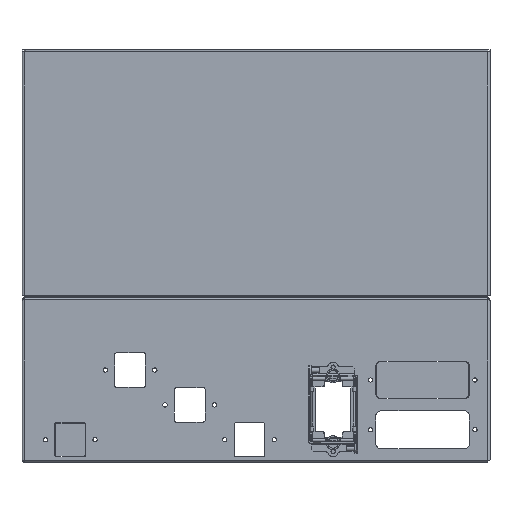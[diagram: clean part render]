
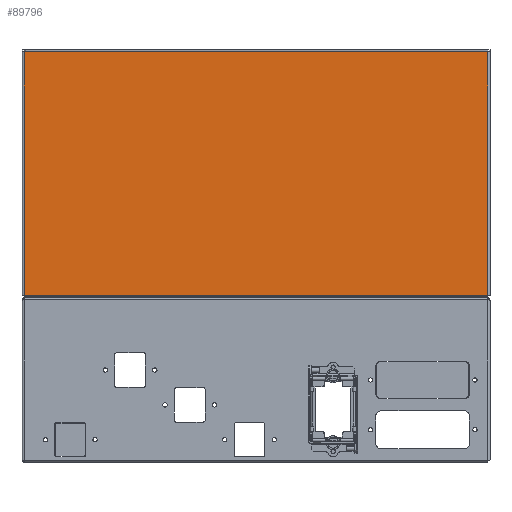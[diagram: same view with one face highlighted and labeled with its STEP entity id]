
A CAD part, top view. The second image highlights one B-rep face of the part: STEP entity #89796.
In plain terms, the highlighted planar face has unit normal (0, 0, 1).
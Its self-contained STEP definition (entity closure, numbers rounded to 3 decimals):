
#89131=CARTESIAN_POINT(' ',(-232.9,122.5,0.));
#89136=DIRECTION(' ',(0.,-1.,0.));
#89141=VECTOR(' ',#89136,1.);
#89146=LINE('',#89131,#89141);
#89151=CARTESIAN_POINT(' ',(-232.9,122.5,0.));
#89152=VERTEX_POINT(' ',#89151);
#89156=CARTESIAN_POINT(' ',(-232.9,-122.5,0.));
#89157=VERTEX_POINT(' ',#89156);
#89161=EDGE_CURVE(' ',#89152,#89157,#89146,.T.);
#89656=DIRECTION(' ',(0.,-0.,1.));
#89661=CARTESIAN_POINT(' ',(-232.9,-122.5,0.));
#89666=DIRECTION(' ',(1.,0.,-0.));
#89671=AXIS2_PLACEMENT_3D(' ',#89661,#89656,#89666);
#89676=PLANE('NONE',#89671);
#89681=ORIENTED_EDGE(' ',*,*,#89161,.T.);
#89686=CARTESIAN_POINT(' ',(-232.9,-122.5,0.));
#89691=DIRECTION(' ',(1.,0.,0.));
#89696=VECTOR(' ',#89691,1.);
#89701=LINE('',#89686,#89696);
#89706=CARTESIAN_POINT(' ',(232.9,-122.5,0.));
#89707=VERTEX_POINT(' ',#89706);
#89711=EDGE_CURVE(' ',#89157,#89707,#89701,.T.);
#89716=ORIENTED_EDGE(' ',*,*,#89711,.T.);
#89721=CARTESIAN_POINT(' ',(232.9,-122.5,0.));
#89726=DIRECTION(' ',(0.,1.,0.));
#89731=VECTOR(' ',#89726,1.);
#89736=LINE('',#89721,#89731);
#89741=CARTESIAN_POINT(' ',(232.9,122.5,0.));
#89742=VERTEX_POINT(' ',#89741);
#89746=EDGE_CURVE(' ',#89707,#89742,#89736,.T.);
#89751=ORIENTED_EDGE(' ',*,*,#89746,.T.);
#89756=CARTESIAN_POINT(' ',(232.9,122.5,0.));
#89761=DIRECTION(' ',(-1.,0.,0.));
#89766=VECTOR(' ',#89761,1.);
#89771=LINE('',#89756,#89766);
#89776=EDGE_CURVE(' ',#89742,#89152,#89771,.T.);
#89781=ORIENTED_EDGE(' ',*,*,#89776,.T.);
#89786=EDGE_LOOP(' ',(#89681,#89716,#89751,#89781));
#89791=FACE_OUTER_BOUND(' ',#89786,.T.);
#89796=ADVANCED_FACE('NONE',(#89791),#89676,.T.);
